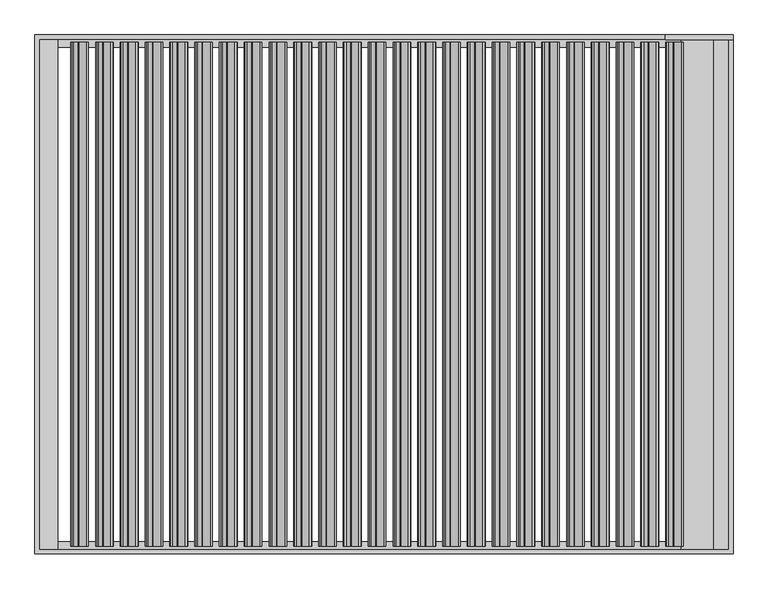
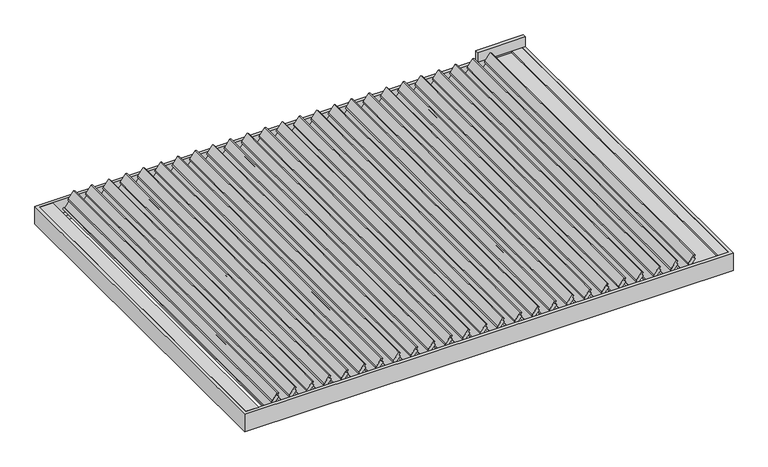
"""IFC4 building model written with IfcOpenShell, lengths in millimetres: proxy geometry, Renson_Aero_Patio covers : Aero - Single."""

from ifc_helpers import new_model, si_unit, point, frame, frame_2d, origin, origin_with_axes, place, context, project, spatial, polyline, circle_curve, trimmed, segment, composite_curve, outline, extrude, faceted_brep, source, transform, mapped, element, save


def generic_models_66cc750b(model_context):
    return source(origin(), model_context, "Body", "SolidModel", [
        extrude(outline(composite_curve([segment(polyline([(38.6941425, 2381.7963597), (58.328832, 2362.1616702), (81.3082125, 2379.6355971), (91.2056128, 2362.4927968), (3.54674, 2295.835441)]), True, "CONTINUOUS"), segment(trimmed(circle_curve(frame_2d((-5.5326698, 2307.775471)), 15.0), [point((3.54674, 2295.835441))], [point((-15.174484, 2296.2848044))], False, "CARTESIAN"), True, "CONTINUOUS"), segment(polyline([(-15.174484, 2296.2848044), (-30.1324311, 2308.8360123), (-97.3419348, 2252.4405425), (-88.6707887, 2237.421677), (-100.8453082, 2228.1639573), (-120.7163908, 2248.03504), (38.6941425, 2381.7963597)]), True, "CONTINUOUS")], self_intersect=False)), frame((0.0, -2185.0, 0.0), z_axis=(0.0, 1.0, 0.0), x_axis=(0.0, 0.0, 1.0)), (0.0, 0.0, 1.0), 4370.0),
        extrude(outline(composite_curve([segment(polyline([(38.6941425, 2166.7891565), (58.328832, 2147.154467), (81.3082125, 2164.6283939), (91.2056128, 2147.4855936), (3.54674, 2080.8282378)]), True, "CONTINUOUS"), segment(trimmed(circle_curve(frame_2d((-5.5326698, 2092.7682678)), 15.0), [point((3.54674, 2080.8282378))], [point((-15.174484, 2081.2776012))], False, "CARTESIAN"), True, "CONTINUOUS"), segment(polyline([(-15.174484, 2081.2776012), (-30.1324311, 2093.8288091), (-97.3419348, 2037.4333393), (-88.6707887, 2022.4144739), (-100.8453082, 2013.1567542), (-120.7163908, 2033.0278368), (38.6941425, 2166.7891565)]), True, "CONTINUOUS")], self_intersect=False)), frame((0.0, -2185.0, 0.0), z_axis=(0.0, 1.0, 0.0), x_axis=(0.0, 0.0, 1.0)), (0.0, 0.0, 1.0), 4370.0),
        extrude(outline(composite_curve([segment(polyline([(38.6941425, 1951.7819533), (58.328832, 1932.1472638), (81.3082125, 1949.6211907), (91.2056128, 1932.4783904), (3.54674, 1865.8210346)]), True, "CONTINUOUS"), segment(trimmed(circle_curve(frame_2d((-5.5326698, 1877.7610646)), 15.0), [point((3.54674, 1865.8210346))], [point((-15.174484, 1866.270398))], False, "CARTESIAN"), True, "CONTINUOUS"), segment(polyline([(-15.174484, 1866.270398), (-30.1324311, 1878.8216059), (-97.3419348, 1822.4261362), (-88.6707887, 1807.4072707), (-100.8453082, 1798.149551), (-120.7163908, 1818.0206336), (38.6941425, 1951.7819533)]), True, "CONTINUOUS")], self_intersect=False)), frame((0.0, -2185.0, 0.0), z_axis=(0.0, 1.0, 0.0), x_axis=(0.0, 0.0, 1.0)), (0.0, 0.0, 1.0), 4370.0),
        extrude(outline(composite_curve([segment(polyline([(38.6941425, 1736.7747501), (58.328832, 1717.1400606), (81.3082125, 1734.6139876), (91.2056128, 1717.4711872), (3.54674, 1650.8138314)]), True, "CONTINUOUS"), segment(trimmed(circle_curve(frame_2d((-5.5326698, 1662.7538615)), 15.0), [point((3.54674, 1650.8138314))], [point((-15.174484, 1651.2631948))], False, "CARTESIAN"), True, "CONTINUOUS"), segment(polyline([(-15.174484, 1651.2631948), (-30.1324311, 1663.8144027), (-97.3419348, 1607.418933), (-88.6707887, 1592.4000675), (-100.8453082, 1583.1423478), (-120.7163908, 1603.0134304), (38.6941425, 1736.7747501)]), True, "CONTINUOUS")], self_intersect=False)), frame((0.0, -2185.0, 0.0), z_axis=(0.0, 1.0, 0.0), x_axis=(0.0, 0.0, 1.0)), (0.0, 0.0, 1.0), 4370.0),
        extrude(outline(composite_curve([segment(polyline([(38.6941425, 1521.7675469), (58.328832, 1502.1328574), (81.3082125, 1519.6067844), (91.2056128, 1502.4639841), (3.54674, 1435.8066282)]), True, "CONTINUOUS"), segment(trimmed(circle_curve(frame_2d((-5.5326698, 1447.7466583)), 15.0), [point((3.54674, 1435.8066282))], [point((-15.174484, 1436.2559916))], False, "CARTESIAN"), True, "CONTINUOUS"), segment(polyline([(-15.174484, 1436.2559916), (-30.1324311, 1448.8071995), (-97.3419348, 1392.4117298), (-88.6707887, 1377.3928643), (-100.8453082, 1368.1351446), (-120.7163908, 1388.0062272), (38.6941425, 1521.7675469)]), True, "CONTINUOUS")], self_intersect=False)), frame((0.0, -2185.0, 0.0), z_axis=(0.0, 1.0, 0.0), x_axis=(0.0, 0.0, 1.0)), (0.0, 0.0, 1.0), 4370.0),
        extrude(outline(composite_curve([segment(polyline([(38.6941425, 1306.7603438), (58.328832, 1287.1256542), (81.3082125, 1304.5995812), (91.2056128, 1287.4567809), (3.54674, 1220.799425)]), True, "CONTINUOUS"), segment(trimmed(circle_curve(frame_2d((-5.5326698, 1232.7394551)), 15.0), [point((3.54674, 1220.799425))], [point((-15.174484, 1221.2487884))], False, "CARTESIAN"), True, "CONTINUOUS"), segment(polyline([(-15.174484, 1221.2487884), (-30.1324311, 1233.7999964), (-97.3419348, 1177.4045266), (-88.6707887, 1162.3856611), (-100.8453082, 1153.1279414), (-120.7163908, 1172.9990241), (38.6941425, 1306.7603438)]), True, "CONTINUOUS")], self_intersect=False)), frame((0.0, -2185.0, 0.0), z_axis=(0.0, 1.0, 0.0), x_axis=(0.0, 0.0, 1.0)), (0.0, 0.0, 1.0), 4370.0),
        extrude(outline(composite_curve([segment(polyline([(38.6941425, 1091.7531406), (58.328832, 1072.118451), (81.3082125, 1089.592378), (91.2056128, 1072.4495777), (3.54674, 1005.7922219)]), True, "CONTINUOUS"), segment(trimmed(circle_curve(frame_2d((-5.5326698, 1017.7322519)), 15.0), [point((3.54674, 1005.7922219))], [point((-15.174484, 1006.2415852))], False, "CARTESIAN"), True, "CONTINUOUS"), segment(polyline([(-15.174484, 1006.2415852), (-30.1324311, 1018.7927932), (-97.3419348, 962.3973234), (-88.6707887, 947.3784579), (-100.8453082, 938.1207382), (-120.7163908, 957.9918209), (38.6941425, 1091.7531406)]), True, "CONTINUOUS")], self_intersect=False)), frame((0.0, -2185.0, 0.0), z_axis=(0.0, 1.0, 0.0), x_axis=(0.0, 0.0, 1.0)), (0.0, 0.0, 1.0), 4370.0),
        extrude(outline(composite_curve([segment(polyline([(38.6941425, 876.7459374), (58.328832, 857.1112478), (81.3082125, 874.5851748), (91.2056128, 857.4423745), (3.54674, 790.7850187)]), True, "CONTINUOUS"), segment(trimmed(circle_curve(frame_2d((-5.5326698, 802.7250487)), 15.0), [point((3.54674, 790.7850187))], [point((-15.174484, 791.2343821))], False, "CARTESIAN"), True, "CONTINUOUS"), segment(polyline([(-15.174484, 791.2343821), (-30.1324311, 803.78559), (-97.3419348, 747.3901202), (-88.6707887, 732.3712547), (-100.8453082, 723.113535), (-120.7163908, 742.9846177), (38.6941425, 876.7459374)]), True, "CONTINUOUS")], self_intersect=False)), frame((0.0, -2185.0, 0.0), z_axis=(0.0, 1.0, 0.0), x_axis=(0.0, 0.0, 1.0)), (0.0, 0.0, 1.0), 4370.0),
        extrude(outline(composite_curve([segment(polyline([(38.6941425, 661.7387342), (58.328832, 642.1040447), (81.3082125, 659.5779716), (91.2056128, 642.4351713), (3.54674, 575.7778155)]), True, "CONTINUOUS"), segment(trimmed(circle_curve(frame_2d((-5.5326698, 587.7178455)), 15.0), [point((3.54674, 575.7778155))], [point((-15.174484, 576.2271789))], False, "CARTESIAN"), True, "CONTINUOUS"), segment(polyline([(-15.174484, 576.2271789), (-30.1324311, 588.7783868), (-97.3419348, 532.382917), (-88.6707887, 517.3640515), (-100.8453082, 508.1063318), (-120.7163908, 527.9774145), (38.6941425, 661.7387342)]), True, "CONTINUOUS")], self_intersect=False)), frame((0.0, -2185.0, 0.0), z_axis=(0.0, 1.0, 0.0), x_axis=(0.0, 0.0, 1.0)), (0.0, 0.0, 1.0), 4370.0),
        extrude(outline(composite_curve([segment(polyline([(38.6941425, 446.731531), (58.328832, 427.0968415), (81.3082125, 444.5707684), (91.2056128, 427.4279681), (3.54674, 360.7706123)]), True, "CONTINUOUS"), segment(trimmed(circle_curve(frame_2d((-5.5326698, 372.7106423)), 15.0), [point((3.54674, 360.7706123))], [point((-15.174484, 361.2199757))], False, "CARTESIAN"), True, "CONTINUOUS"), segment(polyline([(-15.174484, 361.2199757), (-30.1324311, 373.7711836), (-97.3419348, 317.3757138), (-88.6707887, 302.3568484), (-100.8453082, 293.0991287), (-120.7163908, 312.9702113), (38.6941425, 446.731531)]), True, "CONTINUOUS")], self_intersect=False)), frame((0.0, -2185.0, 0.0), z_axis=(0.0, 1.0, 0.0), x_axis=(0.0, 0.0, 1.0)), (0.0, 0.0, 1.0), 4370.0),
        extrude(outline(composite_curve([segment(polyline([(38.6941425, 231.7243278), (58.328832, 212.0896383), (81.3082125, 229.5635652), (91.2056128, 212.4207649), (3.54674, 145.7634091)]), True, "CONTINUOUS"), segment(trimmed(circle_curve(frame_2d((-5.5326698, 157.7034391)), 15.0), [point((3.54674, 145.7634091))], [point((-15.174484, 146.2127725))], False, "CARTESIAN"), True, "CONTINUOUS"), segment(polyline([(-15.174484, 146.2127725), (-30.1324311, 158.7639804), (-97.3419348, 102.3685107), (-88.6707887, 87.3496452), (-100.8453082, 78.0919255), (-120.7163908, 97.9630081), (38.6941425, 231.7243278)]), True, "CONTINUOUS")], self_intersect=False)), frame((0.0, -2185.0, 0.0), z_axis=(0.0, 1.0, 0.0), x_axis=(0.0, 0.0, 1.0)), (0.0, 0.0, 1.0), 4370.0),
        extrude(outline(composite_curve([segment(polyline([(38.6941425, 16.7171246), (58.328832, -2.9175649), (81.3082125, 14.556362), (91.2056128, -2.5864383), (3.54674, -69.2437941)]), True, "CONTINUOUS"), segment(trimmed(circle_curve(frame_2d((-5.5326698, -57.303764)), 15.0), [point((3.54674, -69.2437941))], [point((-15.174484, -68.7944307))], False, "CARTESIAN"), True, "CONTINUOUS"), segment(polyline([(-15.174484, -68.7944307), (-30.1324311, -56.2432228), (-97.3419348, -112.6386925), (-88.6707887, -127.657558), (-100.8453082, -136.9152777), (-120.7163908, -117.0441951), (38.6941425, 16.7171246)]), True, "CONTINUOUS")], self_intersect=False)), frame((0.0, -2185.0, 0.0), z_axis=(0.0, 1.0, 0.0), x_axis=(0.0, 0.0, 1.0)), (0.0, 0.0, 1.0), 4370.0),
        extrude(outline(composite_curve([segment(polyline([(38.6941425, -198.2900786), (58.328832, -217.9247681), (81.3082125, -200.4508411), (91.2056128, -217.5936414), (3.54674, -284.2509973)]), True, "CONTINUOUS"), segment(trimmed(circle_curve(frame_2d((-5.5326698, -272.3109672)), 15.0), [point((3.54674, -284.2509973))], [point((-15.174484, -283.8016339))], False, "CARTESIAN"), True, "CONTINUOUS"), segment(polyline([(-15.174484, -283.8016339), (-30.1324311, -271.250426), (-97.3419348, -327.6458957), (-88.6707887, -342.6647612), (-100.8453082, -351.9224809), (-120.7163908, -332.0513983), (38.6941425, -198.2900786)]), True, "CONTINUOUS")], self_intersect=False)), frame((0.0, -2185.0, 0.0), z_axis=(0.0, 1.0, 0.0), x_axis=(0.0, 0.0, 1.0)), (0.0, 0.0, 1.0), 4370.0),
        extrude(outline(composite_curve([segment(polyline([(38.6941425, -413.2972817), (58.328832, -432.9319713), (81.3082125, -415.4580443), (91.2056128, -432.6008446), (3.54674, -499.2582005)]), True, "CONTINUOUS"), segment(trimmed(circle_curve(frame_2d((-5.5326698, -487.3181704)), 15.0), [point((3.54674, -499.2582005))], [point((-15.174484, -498.8088371))], False, "CARTESIAN"), True, "CONTINUOUS"), segment(polyline([(-15.174484, -498.8088371), (-30.1324311, -486.2576292), (-97.3419348, -542.6530989), (-88.6707887, -557.6719644), (-100.8453082, -566.9296841), (-120.7163908, -547.0586014), (38.6941425, -413.2972817)]), True, "CONTINUOUS")], self_intersect=False)), frame((0.0, -2185.0, 0.0), z_axis=(0.0, 1.0, 0.0), x_axis=(0.0, 0.0, 1.0)), (0.0, 0.0, 1.0), 4370.0),
        extrude(outline(composite_curve([segment(polyline([(38.6941425, -628.3044849), (58.328832, -647.9391745), (81.3082125, -630.4652475), (91.2056128, -647.6080478), (3.54674, -714.2654036)]), True, "CONTINUOUS"), segment(trimmed(circle_curve(frame_2d((-5.5326698, -702.3253736)), 15.0), [point((3.54674, -714.2654036))], [point((-15.174484, -713.8160403))], False, "CARTESIAN"), True, "CONTINUOUS"), segment(polyline([(-15.174484, -713.8160403), (-30.1324311, -701.2648323), (-97.3419348, -757.6603021), (-88.6707887, -772.6791676), (-100.8453082, -781.9368873), (-120.7163908, -762.0658046), (38.6941425, -628.3044849)]), True, "CONTINUOUS")], self_intersect=False)), frame((0.0, -2185.0, 0.0), z_axis=(0.0, 1.0, 0.0), x_axis=(0.0, 0.0, 1.0)), (0.0, 0.0, 1.0), 4370.0),
        extrude(outline(composite_curve([segment(polyline([(38.6941425, -843.3116881), (58.328832, -862.9463777), (81.3082125, -845.4724507), (91.2056128, -862.615251), (3.54674, -929.2726068)]), True, "CONTINUOUS"), segment(trimmed(circle_curve(frame_2d((-5.5326698, -917.3325768)), 15.0), [point((3.54674, -929.2726068))], [point((-15.174484, -928.8232434))], False, "CARTESIAN"), True, "CONTINUOUS"), segment(polyline([(-15.174484, -928.8232434), (-30.1324311, -916.2720355), (-97.3419348, -972.6675053), (-88.6707887, -987.6863708), (-100.8453082, -996.9440905), (-120.7163908, -977.0730078), (38.6941425, -843.3116881)]), True, "CONTINUOUS")], self_intersect=False)), frame((0.0, -2185.0, 0.0), z_axis=(0.0, 1.0, 0.0), x_axis=(0.0, 0.0, 1.0)), (0.0, 0.0, 1.0), 4370.0),
        extrude(outline(composite_curve([segment(polyline([(38.6941425, -1058.3188913), (58.328832, -1077.9535808), (81.3082125, -1060.4796539), (91.2056128, -1077.6224542), (3.54674, -1144.27981)]), True, "CONTINUOUS"), segment(trimmed(circle_curve(frame_2d((-5.5326698, -1132.33978)), 15.0), [point((3.54674, -1144.27981))], [point((-15.174484, -1143.8304466))], False, "CARTESIAN"), True, "CONTINUOUS"), segment(polyline([(-15.174484, -1143.8304466), (-30.1324311, -1131.2792387), (-97.3419348, -1187.6747085), (-88.6707887, -1202.693574), (-100.8453082, -1211.9512937), (-120.7163908, -1192.080211), (38.6941425, -1058.3188913)]), True, "CONTINUOUS")], self_intersect=False)), frame((0.0, -2185.0, 0.0), z_axis=(0.0, 1.0, 0.0), x_axis=(0.0, 0.0, 1.0)), (0.0, 0.0, 1.0), 4370.0),
        extrude(outline(composite_curve([segment(polyline([(38.6941425, -1273.3260945), (58.328832, -1292.960784), (81.3082125, -1275.4868571), (91.2056128, -1292.6296574), (3.54674, -1359.2870132)]), True, "CONTINUOUS"), segment(trimmed(circle_curve(frame_2d((-5.5326698, -1347.3469832)), 15.0), [point((3.54674, -1359.2870132))], [point((-15.174484, -1358.8376498))], False, "CARTESIAN"), True, "CONTINUOUS"), segment(polyline([(-15.174484, -1358.8376498), (-30.1324311, -1346.2864419), (-97.3419348, -1402.6819117), (-88.6707887, -1417.7007771), (-100.8453082, -1426.9584968), (-120.7163908, -1407.0874142), (38.6941425, -1273.3260945)]), True, "CONTINUOUS")], self_intersect=False)), frame((0.0, -2185.0, 0.0), z_axis=(0.0, 1.0, 0.0), x_axis=(0.0, 0.0, 1.0)), (0.0, 0.0, 1.0), 4370.0),
        extrude(outline(composite_curve([segment(polyline([(38.6941425, -1488.3332977), (58.328832, -1507.9679872), (81.3082125, -1490.4940603), (91.2056128, -1507.6368606), (3.54674, -1574.2942164)]), True, "CONTINUOUS"), segment(trimmed(circle_curve(frame_2d((-5.5326698, -1562.3541864)), 15.0), [point((3.54674, -1574.2942164))], [point((-15.174484, -1573.844853))], False, "CARTESIAN"), True, "CONTINUOUS"), segment(polyline([(-15.174484, -1573.844853), (-30.1324311, -1561.2936451), (-97.3419348, -1617.6891148), (-88.6707887, -1632.7079803), (-100.8453082, -1641.9657), (-120.7163908, -1622.0946174), (38.6941425, -1488.3332977)]), True, "CONTINUOUS")], self_intersect=False)), frame((0.0, -2185.0, 0.0), z_axis=(0.0, 1.0, 0.0), x_axis=(0.0, 0.0, 1.0)), (0.0, 0.0, 1.0), 4370.0),
        extrude(outline(composite_curve([segment(polyline([(38.6941425, -1703.3405009), (58.328832, -1722.9751904), (81.3082125, -1705.5012635), (91.2056128, -1722.6440638), (3.54674, -1789.3014196)]), True, "CONTINUOUS"), segment(trimmed(circle_curve(frame_2d((-5.5326698, -1777.3613895)), 15.0), [point((3.54674, -1789.3014196))], [point((-15.174484, -1788.8520562))], False, "CARTESIAN"), True, "CONTINUOUS"), segment(polyline([(-15.174484, -1788.8520562), (-30.1324311, -1776.3008483), (-97.3419348, -1832.696318), (-88.6707887, -1847.7151835), (-100.8453082, -1856.9729032), (-120.7163908, -1837.1018206), (38.6941425, -1703.3405009)]), True, "CONTINUOUS")], self_intersect=False)), frame((0.0, -2185.0, 0.0), z_axis=(0.0, 1.0, 0.0), x_axis=(0.0, 0.0, 1.0)), (0.0, 0.0, 1.0), 4370.0),
        extrude(outline(composite_curve([segment(polyline([(38.6941425, -1918.3477041), (58.328832, -1937.9823936), (81.3082125, -1920.5084666), (91.2056128, -1937.6512669), (3.54674, -2004.3086228)]), True, "CONTINUOUS"), segment(trimmed(circle_curve(frame_2d((-5.5326698, -1992.3685927)), 15.0), [point((3.54674, -2004.3086228))], [point((-15.174484, -2003.8592594))], False, "CARTESIAN"), True, "CONTINUOUS"), segment(polyline([(-15.174484, -2003.8592594), (-30.1324311, -1991.3080515), (-97.3419348, -2047.7035212), (-88.6707887, -2062.7223867), (-100.8453082, -2071.9801064), (-120.7163908, -2052.1090238), (38.6941425, -1918.3477041)]), True, "CONTINUOUS")], self_intersect=False)), frame((0.0, -2185.0, 0.0), z_axis=(0.0, 1.0, 0.0), x_axis=(0.0, 0.0, 1.0)), (0.0, 0.0, 1.0), 4370.0),
        extrude(outline(composite_curve([segment(polyline([(38.6941425, -2133.3549072), (58.328832, -2152.9895968), (81.3082125, -2135.5156698), (91.2056128, -2152.6584701), (3.54674, -2219.315826)]), True, "CONTINUOUS"), segment(trimmed(circle_curve(frame_2d((-5.5326698, -2207.3757959)), 15.0), [point((3.54674, -2219.315826))], [point((-15.174484, -2218.8664626))], False, "CARTESIAN"), True, "CONTINUOUS"), segment(polyline([(-15.174484, -2218.8664626), (-30.1324311, -2206.3152547), (-97.3419348, -2262.7107244), (-88.6707887, -2277.7295899), (-100.8453082, -2286.9873096), (-120.7163908, -2267.1162269), (38.6941425, -2133.3549072)]), True, "CONTINUOUS")], self_intersect=False)), frame((0.0, -2185.0, 0.0), z_axis=(0.0, 1.0, 0.0), x_axis=(0.0, 0.0, 1.0)), (0.0, 0.0, 1.0), 4370.0),
        extrude(outline(composite_curve([segment(polyline([(38.6941425, -2348.3621104), (58.328832, -2367.9968), (81.3082125, -2350.522873), (91.2056128, -2367.6656733), (3.54674, -2434.3230292)]), True, "CONTINUOUS"), segment(trimmed(circle_curve(frame_2d((-5.5326698, -2422.3829991)), 15.0), [point((3.54674, -2434.3230292))], [point((-15.174484, -2433.8736658))], False, "CARTESIAN"), True, "CONTINUOUS"), segment(polyline([(-15.174484, -2433.8736658), (-30.1324311, -2421.3224578), (-97.3419348, -2477.7179276), (-88.6707887, -2492.7367931), (-100.8453082, -2501.9945128), (-120.7163908, -2482.1234301), (38.6941425, -2348.3621104)]), True, "CONTINUOUS")], self_intersect=False)), frame((0.0, -2185.0, 0.0), z_axis=(0.0, 1.0, 0.0), x_axis=(0.0, 0.0, 1.0)), (0.0, 0.0, 1.0), 4370.0),
        extrude(outline(composite_curve([segment(polyline([(38.6941425, 2596.8035629), (58.328832, 2577.1688733), (81.3082125, 2594.6428003), (91.2056128, 2577.5), (3.54674, 2510.8426442)]), True, "CONTINUOUS"), segment(trimmed(circle_curve(frame_2d((-5.5326698, 2522.7826742)), 15.0), [point((3.54674, 2510.8426442))], [point((-15.174484, 2511.2920076))], False, "CARTESIAN"), True, "CONTINUOUS"), segment(polyline([(-15.174484, 2511.2920076), (-30.1324311, 2523.8432155), (-97.3419348, 2467.4477457), (-88.6707887, 2452.4288802), (-100.8453082, 2443.1711605), (-120.7163908, 2463.0422432), (38.6941425, 2596.8035629)]), True, "CONTINUOUS")], self_intersect=False)), frame((0.0, -2185.0, 0.0), z_axis=(0.0, 1.0, 0.0), x_axis=(0.0, 0.0, 1.0)), (0.0, 0.0, 1.0), 4370.0),
        extrude(outline(composite_curve([segment(polyline([(38.6941425, -2563.3693136), (58.328832, -2583.0040032), (81.3082125, -2565.5300762), (91.2056128, -2582.6728765), (3.54674, -2649.3302323)]), True, "CONTINUOUS"), segment(trimmed(circle_curve(frame_2d((-5.5326698, -2637.3902023)), 15.0), [point((3.54674, -2649.3302323))], [point((-15.174484, -2648.8808689))], False, "CARTESIAN"), True, "CONTINUOUS"), segment(polyline([(-15.174484, -2648.8808689), (-30.1324311, -2636.329661), (-97.3419348, -2692.7251308), (-88.6707887, -2707.7439963), (-100.8453082, -2717.001716), (-120.7163908, -2697.1306333), (38.6941425, -2563.3693136)]), True, "CONTINUOUS")], self_intersect=False)), frame((0.0, -2185.0, 0.0), z_axis=(0.0, 1.0, 0.0), x_axis=(0.0, 0.0, 1.0)), (0.0, 0.0, 1.0), 4370.0),
        extrude(outline(polyline([(-63.35, 2987.5), (0.0, 2987.5), (0.0, 2858.0), (-20.0, 2858.0), (-20.0, 2577.5), (-44.0, 2577.5), (-44.0, 2827.5), (-63.35, 2827.5), (-63.35, 2987.5)])), frame((0.0, -2210.0, 0.0), z_axis=(0.0, 1.0, 0.0), x_axis=(0.0, 0.0, 1.0)), (0.0, 0.0, 1.0), 4420.0),
        extrude(outline(polyline([(0.0, -2827.5), (0.0, -2987.5), (-44.0, -2987.5), (-44.0, -2854.8193336), (-10.8283397, -2851.9171894), (-9.655498, -2827.5), (0.0, -2827.5)])), frame((0.0, -2210.0, 0.0), z_axis=(0.0, 1.0, 0.0), x_axis=(0.0, 0.0, 1.0)), (0.0, 0.0, 1.0), 4420.0),
        extrude(outline(polyline([(3027.5, 2250.0), (3027.5, 2210.0), (2437.5, 2210.0), (2437.5, 2250.0), (3027.5, 2250.0)])), origin_with_axes(), (0.0, 0.0, 1.0), 130.0),
        faceted_brep([(-2987.5, 2210.0, 0.0), (-2987.5, 2210.0, -173.0), (2987.5, 2210.0, -173.0), (2987.5, 2210.0, 0.0), (-3027.5, 2250.0, -230.0), (-3027.5, 2250.0, 0.0), (3027.5, 2250.0, 0.0), (3027.5, 2250.0, -230.0), (-2917.5, 2140.0, -173.0), (-2917.5, 2140.0, -230.0), (2917.5, 2140.0, -230.0), (2917.5, 2140.0, -173.0), (2987.5, -2210.0, -173.0), (2987.5, -2210.0, 0.0), (3027.5, -2250.0, 0.0), (3027.5, -2250.0, -230.0), (2917.5, -2140.0, -230.0), (2917.5, -2140.0, -173.0), (-2987.5, -2210.0, -173.0), (-2987.5, -2210.0, 0.0), (-3027.5, -2250.0, 0.0), (-3027.5, -2250.0, -230.0), (-2917.5, -2140.0, -230.0), (-2917.5, -2140.0, -173.0)], [[[0, 1, 2, 3]], [[4, 5, 6, 7]], [[8, 9, 10, 11]], [[3, 2, 12, 13]], [[7, 6, 14, 15]], [[11, 10, 16, 17]], [[13, 12, 18, 19]], [[15, 14, 20, 21]], [[17, 16, 22, 23]], [[19, 18, 1, 0]], [[5, 20, 14, 6], [3, 13, 19, 0]], [[21, 20, 5, 4]], [[7, 15, 21, 4], [9, 22, 16, 10]], [[23, 22, 9, 8]], [[1, 18, 12, 2], [11, 17, 23, 8]]]),
    ])


if __name__ == "__main__":
    model = new_model("IFC4")
    model_context = context("Model", 3, world=origin())
    ifc_project = project(units=[si_unit("LENGTHUNIT", "METRE", prefix="MILLI")], contexts=[model_context])
    site = spatial("IfcSite", under=ifc_project)
    building = spatial("IfcBuilding", under=site)
    placement = place(None, origin())
    generic_models_shape = generic_models_66cc750b(model_context)
    element("IfcBuildingElementProxy", 1, Name="Renson_Aero_Patio covers : Aero - Single", ObjectType="Renson_Aero_Patio covers : Aero - Single", at=placement, inside=building, context=model_context, shape_type="MappedRepresentation", body=[
        mapped(generic_models_shape, transform((0.0, 0.0, 0.0), x_axis=(1.0, 0.0, 0.0), y_axis=(0.0, 1.0, 0.0), z_axis=(0.0, 0.0, 1.0))),
    ])
    save(model, "model.ifc")
